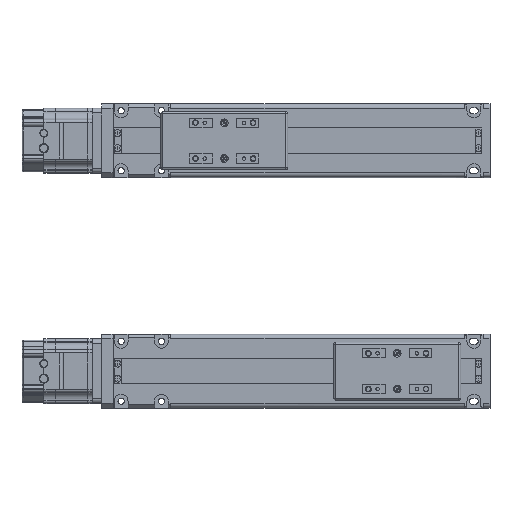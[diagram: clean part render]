
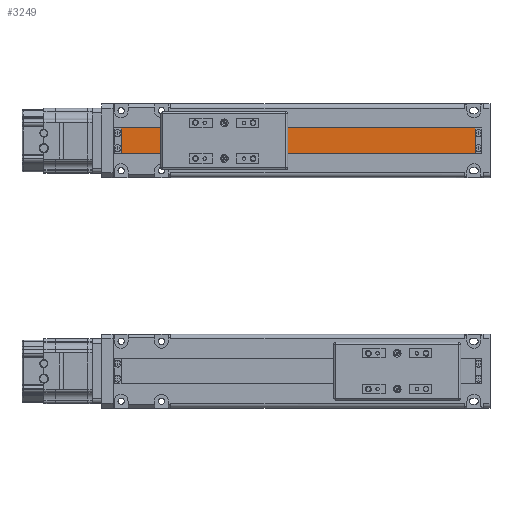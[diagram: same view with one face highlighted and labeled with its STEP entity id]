
A CAD part, top view. The second image highlights one B-rep face of the part: STEP entity #3249.
In plain terms, the highlighted planar face has unit normal (0, 0, 1).
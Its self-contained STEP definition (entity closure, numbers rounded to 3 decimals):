
#3249=ADVANCED_FACE('',(#7398),#7399,.T.);
#7398=FACE_OUTER_BOUND('',#13577,.T.);
#7399=PLANE('',#13578);
#13577=EDGE_LOOP('',(#24321,#24322,#24323,#24324));
#13578=AXIS2_PLACEMENT_3D('',#24325,#24326,#24327);
#24321=ORIENTED_EDGE('',*,*,#36401,.T.);
#24322=ORIENTED_EDGE('',*,*,#33395,.T.);
#24323=ORIENTED_EDGE('',*,*,#34192,.T.);
#24324=ORIENTED_EDGE('',*,*,#34406,.T.);
#24325=CARTESIAN_POINT('',(803.528,10.0,19.1));
#24326=DIRECTION('',(-0.0,0.,1.0));
#24327=DIRECTION('',(1.0,0.0,0.0));
#33395=EDGE_CURVE('',#39899,#39900,#39901,.T.);
#34192=EDGE_CURVE('',#39900,#41275,#41276,.T.);
#34406=EDGE_CURVE('',#41275,#41625,#41626,.T.);
#36401=EDGE_CURVE('',#41625,#39899,#44658,.T.);
#39899=VERTEX_POINT('',#49080);
#39900=VERTEX_POINT('',#49081);
#39901=LINE('',#49082,#49083);
#41275=VERTEX_POINT('',#51024);
#41276=LINE('',#51025,#51026);
#41625=VERTEX_POINT('',#51510);
#41626=LINE('',#51511,#51512);
#44658=LINE('',#55861,#55862);
#49080=CARTESIAN_POINT('',(768.528,21.0,19.1));
#49081=CARTESIAN_POINT('',(768.528,-1.0,19.1));
#49082=CARTESIAN_POINT('',(768.528,10.0,19.1));
#49083=VECTOR('',#60444,1000.0);
#51024=CARTESIAN_POINT('',(1075.528,-1.0,19.1));
#51025=CARTESIAN_POINT('',(763.528,-1.0,19.1));
#51026=VECTOR('',#61414,1000.0);
#51510=CARTESIAN_POINT('',(1075.528,21.0,19.1));
#51511=CARTESIAN_POINT('',(1075.528,10.0,19.1));
#51512=VECTOR('',#61662,1000.0);
#55861=CARTESIAN_POINT('',(1081.528,21.0,19.1));
#55862=VECTOR('',#64011,1000.0);
#60444=DIRECTION('',(0.0,-1.0,0.));
#61414=DIRECTION('',(1.0,0.0,0.0));
#61662=DIRECTION('',(0.0,1.0,0.));
#64011=DIRECTION('',(-1.0,0.0,0.0));
